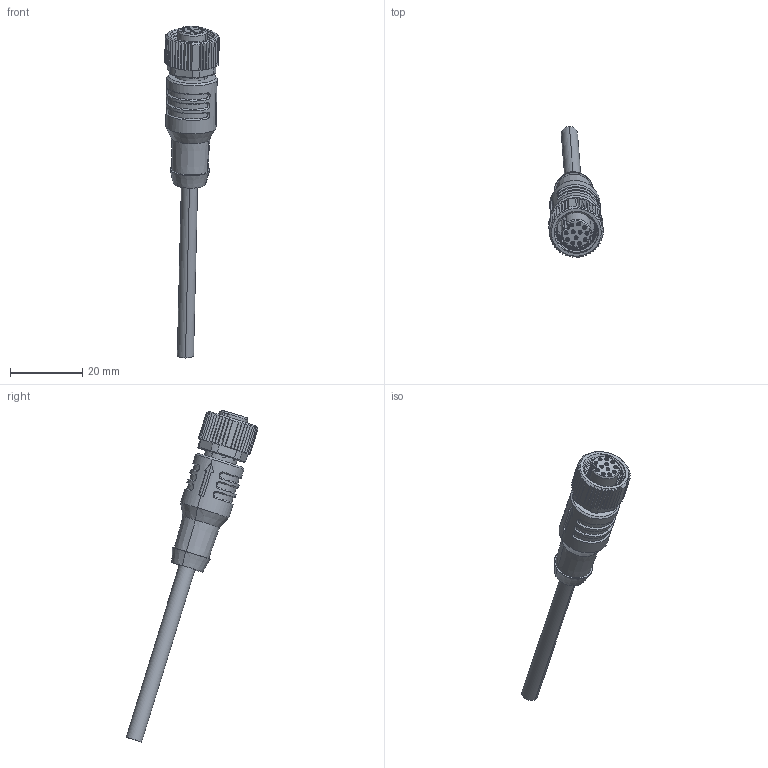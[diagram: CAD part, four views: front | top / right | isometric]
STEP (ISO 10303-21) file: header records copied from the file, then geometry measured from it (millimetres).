
FILE_DESCRIPTION (( 'STEP AP203' ), '1' );
FILE_NAME ('64S381-XXX.STEP', '2023-09-16T07:47:25', ( 'ADMIN' ), ( '' ), 'SwSTEP 2.0', 'SolidWorks 2016', '' );
FILE_SCHEMA (( 'CONFIG_CONTROL_DESIGN' ));
Length unit declared in the file: millimetre
Products named in the file (1): 64S381-XXX
Bounding box: 15.16 x 36.51 x 92.04 mm (x, y, z)
Volume: 5617.1 mm3; surface area: 4611.3 mm2
Topology: 1 solids, 1 shells, 755 faces, 2231 edges, 1470 vertices
Faces by surface type: plane 283, cylinder 272, bspline 137, cone 63
Entity records: 33562 total; most frequent: CARTESIAN_POINT 14305, ORIENTED_EDGE 4462, DIRECTION 3550, EDGE_CURVE 2231, VERTEX_POINT 1470, AXIS2_PLACEMENT_3D 1375, EDGE_LOOP 845, LINE 800
